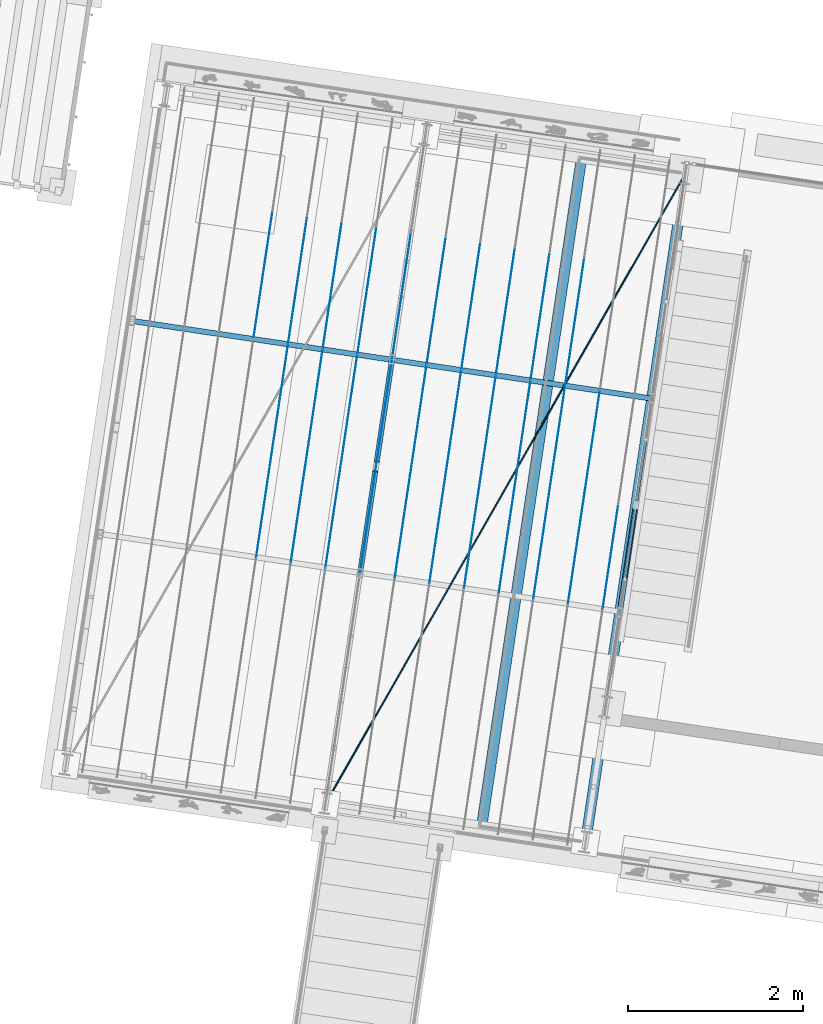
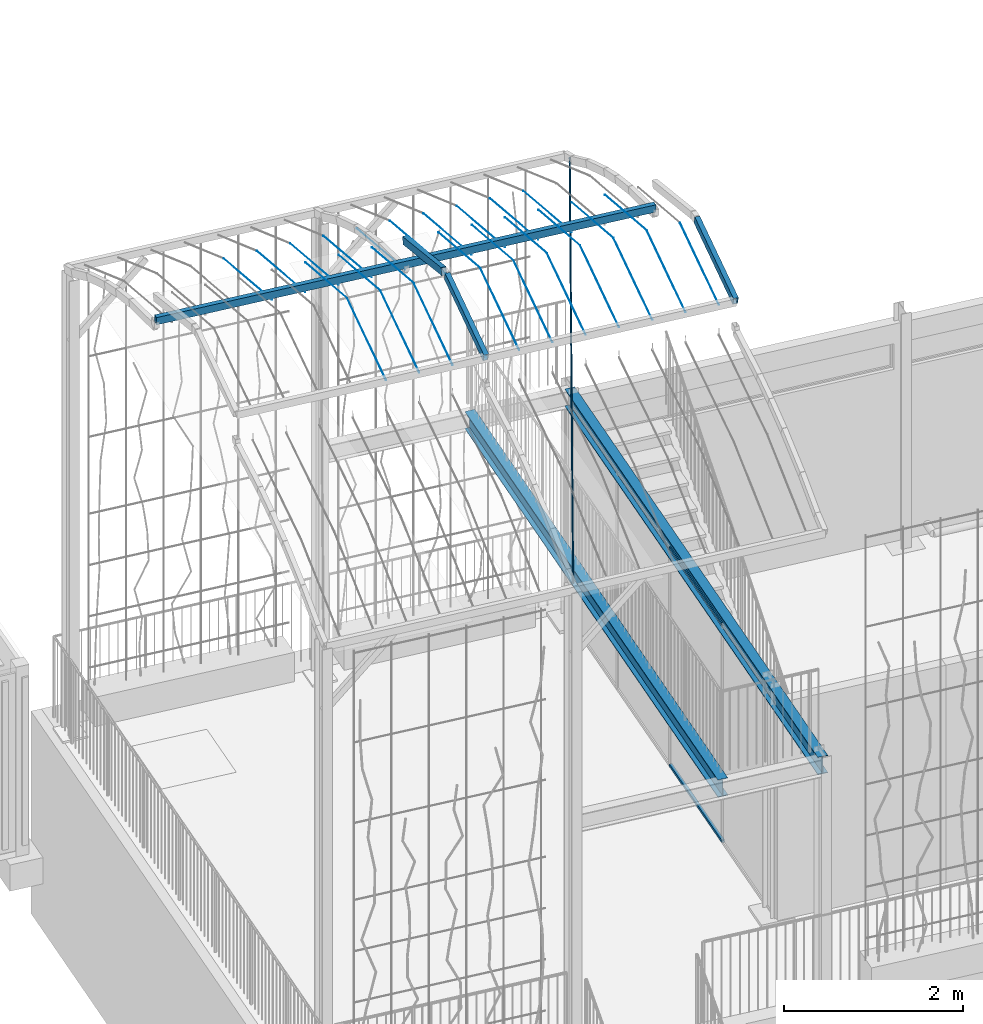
# One storey, part 31 of 142: 37 members, 3 beams, 1 element without a shape of its own.
"""IFC4 building model written with IfcOpenShell, lengths in metres."""

import ifcopenshell
import ifcopenshell.guid

model = None  # the IFC model being written
_history = None  # IfcOwnerHistory: only IFC2X3 demands one
_inside = {}  # id of a spatial element -> (the spatial element, [elements in it])
_under = {}  # id of a project, library or spatial element -> (it, [spatial elements below it])
_declared = {}  # id of a project -> (the project, [libraries it declares])
_typed = {}  # id of a type object -> (the type object, [elements of that type])
_made_of = {}  # id of a material, layer set ... -> (it, [elements and type objects made of it])


def new_model(schema):
    """Start an empty IFC model of exactly this schema.

    Asked for "IFC4X3", IfcOpenShell would pick the latest addendum, in which some entities
    have other attributes; the version numbers below select the first issue.
    IFC2X3 requires an IfcOwnerHistory on every rooted entity: one is made here for all.
    """
    global model, _history
    if schema == "IFC4X3":
        model = ifcopenshell.file(schema_version=(4, 3, 0, 0))
    else:
        model = ifcopenshell.file(schema=schema)
    _inside.clear()
    _under.clear()
    _declared.clear()
    _typed.clear()
    _made_of.clear()
    _history = None
    if model.schema == "IFC2X3":
        org = make("IfcOrganization", Name="unknown")
        user = make(
            "IfcPersonAndOrganization",
            ThePerson=make("IfcPerson", FamilyName="unknown"),
            TheOrganization=org,
        )
        app = make(
            "IfcApplication",
            ApplicationDeveloper=org,
            Version="unknown",
            ApplicationFullName="unknown",
            ApplicationIdentifier="unknown",
        )
        _history = make(
            "IfcOwnerHistory",
            OwningUser=user,
            OwningApplication=app,
            ChangeAction="ADDED",
            CreationDate=0,
        )
    return model


def make(cls, **values):
    """One entity of the class cls with the attributes given. An attribute that is None is left unset."""
    return model.create_entity(
        cls, **{name: value for name, value in values.items() if value is not None}
    )


def rooted(cls, **values):
    """An entity with a GlobalId (a new one), such as an element, a storey or a relation."""
    return make(cls, GlobalId=ifcopenshell.guid.new(), OwnerHistory=_history, **values)


def si_unit(unit_type, name, prefix=None):
    """IfcSIUnit, for example si_unit("LENGTHUNIT", "METRE", prefix="MILLI")."""
    return make("IfcSIUnit", UnitType=unit_type, Prefix=prefix, Name=name)


def assignment(units):
    """IfcUnitAssignment: the units of a project."""
    return None if units is None else make("IfcUnitAssignment", Units=units)


def point(xyz):
    """IfcCartesianPoint."""
    return None if xyz is None else make("IfcCartesianPoint", Coordinates=xyz)


def direction(xyz):
    """IfcDirection."""
    return None if xyz is None else make("IfcDirection", DirectionRatios=xyz)


def frame(location, z_axis=None, x_axis=None):
    """IfcAxis2Placement3D, a coordinate frame: its origin and axes. An axis left out is left unset."""
    return make(
        "IfcAxis2Placement3D",
        Location=point(location),
        Axis=direction(z_axis),
        RefDirection=direction(x_axis),
    )


def origin_with_axes():
    """The frame at (0, 0, 0) with the z axis (0, 0, 1) and the x axis (1, 0, 0) written out."""
    return frame((0.0, 0.0, 0.0), z_axis=(0.0, 0.0, 1.0), x_axis=(1.0, 0.0, 0.0))


def place(relative_to, where):
    """IfcLocalPlacement: puts the frame where relative to a parent placement (None: the world)."""
    return make(
        "IfcLocalPlacement", PlacementRelTo=relative_to, RelativePlacement=where
    )


def context(
    kind, dimensions, precision=None, world=None, true_north=None, identifier=None
):
    """IfcGeometricRepresentationContext, for example the 3D "Model" context."""
    return make(
        "IfcGeometricRepresentationContext",
        ContextIdentifier=identifier,
        ContextType=kind,
        CoordinateSpaceDimension=dimensions,
        Precision=precision,
        WorldCoordinateSystem=world,
        TrueNorth=true_north,
    )


def subcontext(parent, identifier, kind, view, scale=None):
    """IfcGeometricRepresentationSubContext, for example "Body" below "Model"."""
    return make(
        "IfcGeometricRepresentationSubContext",
        ContextIdentifier=identifier,
        ContextType=kind,
        ParentContext=parent,
        TargetScale=scale,
        TargetView=view,
    )


def project(units=None, contexts=None):
    """IfcProject with its units and contexts."""
    return rooted(
        "IfcProject",
        Name="project",
        RepresentationContexts=contexts,
        UnitsInContext=assignment(units),
    )


def spatial(cls, under=None, at=None, **own):
    """A site, building, storey or space (cls), placed at a placement, below another one or the project."""
    s = rooted(cls, ObjectPlacement=at, **own)
    if under is not None:
        _under.setdefault(under.id(), (under, []))[1].append(s)
    return s


def profile(cls, at=None, kind="AREA", **sizes):
    """A parametric profile (cls). Its sizes go by their IFC names, for example OverallWidth=200.0."""
    return make(cls, ProfileType=kind, Position=at, **sizes)


def rectangle(**sizes):
    """IfcRectangleProfileDef."""
    return profile("IfcRectangleProfileDef", **sizes)


def hollow_rectangle(**sizes):
    """IfcRectangleHollowProfileDef."""
    return profile("IfcRectangleHollowProfileDef", **sizes)


def circle(**sizes):
    """IfcCircleProfileDef."""
    return profile("IfcCircleProfileDef", **sizes)


def i_section(**sizes):
    """IfcIShapeProfileDef."""
    return profile("IfcIShapeProfileDef", **sizes)


def extrude(swept, where, along, depth):
    """IfcExtrudedAreaSolid: the profile swept, set in the frame where, extruded along a direction by depth."""
    return make(
        "IfcExtrudedAreaSolid",
        SweptArea=swept,
        Position=where,
        ExtrudedDirection=direction(along),
        Depth=depth,
    )


def shape(context_of_items, identifier, shape_type, items):
    """IfcShapeRepresentation: the items that make up one representation, for example the "Body"."""
    return make(
        "IfcShapeRepresentation",
        ContextOfItems=context_of_items,
        RepresentationIdentifier=identifier,
        RepresentationType=shape_type,
        Items=items,
    )


def material(Name=None, Category=None):
    """IfcMaterial."""
    return make("IfcMaterial", Name=Name, Category=Category)


def material_profile(
    of_material, cross_section, Name=None, Category=None, Priority=None
):
    """IfcMaterialProfile: a cross section and its material."""
    return make(
        "IfcMaterialProfile",
        Name=Name,
        Material=of_material,
        Profile=cross_section,
        Priority=Priority,
        Category=Category,
    )


def profile_set(profiles, Name=None, composite=None):
    """IfcMaterialProfileSet."""
    return make(
        "IfcMaterialProfileSet",
        Name=Name,
        MaterialProfiles=profiles,
        CompositeProfile=composite,
    )


def profile_usage(for_profile_set, cardinal=None, extent=None):
    """IfcMaterialProfileSetUsage: how a profile set lies along its element."""
    return make(
        "IfcMaterialProfileSetUsage",
        ForProfileSet=for_profile_set,
        CardinalPoint=cardinal,
        ReferenceExtent=extent,
    )


def made_of(thing, what):
    """Note that an element or type object is made of a material, layer set ...; save() writes the relation."""
    if what is not None:
        _made_of.setdefault(what.id(), (what, []))[1].append(thing)
    return thing


def type_object(cls, material=None, **own):
    """A type object (cls), such as IfcWallType, which elements share."""
    return made_of(rooted(cls, **own), material)


def element(
    cls,
    number,
    at=None,
    inside=None,
    cuts=None,
    type_object=None,
    material=None,
    context=None,
    identifier="Body",
    shape_type=None,
    held_by="IfcProductDefinitionShape",
    body=None,
    shapes=None,
    **own,
):
    """One element of the class cls, such as IfcWall. Its Tag is "e" and its number.

    at: its placement. inside: the storey or other place that contains it. cuts: it is an
    opening in that element (IfcRelVoidsElement). A single representation is given by context,
    identifier, shape_type and body (its items); several are given by shapes. held_by: the class
    of the entity that holds the representations. save() writes the other relations.
    """
    e = rooted(cls, Tag="e%d" % number, ObjectPlacement=at, **own)
    if body is not None:
        shapes = [shape(context, identifier, shape_type, body)]
    if shapes is not None:
        e.Representation = make(held_by, Representations=shapes)
    if inside is not None:
        _inside.setdefault(inside.id(), (inside, []))[1].append(e)
    if cuts is not None:
        rooted(
            "IfcRelVoidsElement", RelatingBuildingElement=cuts, RelatedOpeningElement=e
        )
    if type_object is not None:
        _typed.setdefault(type_object.id(), (type_object, []))[1].append(e)
    return made_of(e, material)


def aggregate(whole, parts):
    """IfcRelAggregates: a whole, such as a stair, and the parts it consists of."""
    return rooted("IfcRelAggregates", RelatingObject=whole, RelatedObjects=parts)


def save(model, path):
    """Write the relations noted so far, then the file.

    IfcRelAggregates (storeys below a building ...), IfcRelContainedInSpatialStructure (elements
    in a storey), IfcRelDefinesByType, IfcRelAssociatesMaterial and IfcRelDeclares: one each for
    every whole, place, type object, material and project.
    """
    for whole, parts in _under.values():
        aggregate(whole, parts)
    for where, things in _inside.values():
        rooted(
            "IfcRelContainedInSpatialStructure",
            RelatedElements=things,
            RelatingStructure=where,
        )
    for kind, things in _typed.values():
        rooted("IfcRelDefinesByType", RelatedObjects=things, RelatingType=kind)
    for what, things in _made_of.values():
        rooted("IfcRelAssociatesMaterial", RelatedObjects=things, RelatingMaterial=what)
    for by, libraries in _declared.values():
        rooted("IfcRelDeclares", RelatingContext=by, RelatedDefinitions=libraries)
    model.write(path)


model = new_model("IFC4")

# Units and contexts
model_context = context("Model", 3, precision=1e-05, world=origin_with_axes(), true_north=direction((0.0, 1.0)))
body_context = subcontext(model_context, "Body", "Model", "MODEL_VIEW")
ifc_project = project(units=[si_unit("VOLUMEUNIT", "CUBIC_METRE"), si_unit("LENGTHUNIT", "METRE"), si_unit("AREAUNIT", "SQUARE_METRE")], contexts=[model_context])

# Site, building, storey
site_placement = place(None, origin_with_axes())
site = spatial("IfcSite", under=ifc_project, at=site_placement, Name="Lares · Rua das Mercês · artigo 4771")
building_placement = place(site_placement, frame((12.0, 10.2, 13.9), z_axis=(0.0, 0.0, 1.0), x_axis=(0.989015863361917, -0.147809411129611, 0.0)))
building = spatial("IfcBuilding", under=site, at=building_placement, Name="Casa Sobreposta")
storey_placement = place(building_placement, origin_with_axes())
storey = spatial("IfcBuildingStorey", under=building, at=storey_placement, Name="00 · Habitação e estacionamento", Elevation=13.9)

# Assembly, beams
assembly_placement = place(storey_placement, origin_with_axes())
assembly = element("IfcElementAssembly", 1, at=assembly_placement, inside=storey, Name="Pérgola · prolongamento da estufa 6 m", ObjectType="PERGOLA_GREENHOUSE_EXTENSION", PredefinedType="USERDEFINED")
ifc_material_1 = material(Name="Aço pintado / Stahl lackiert", Category="steel")
ifc_material_profile_1 = material_profile(ifc_material_1, i_section(OverallWidth=0.12, OverallDepth=0.24, WebThickness=0.0062, FlangeThickness=0.0098))
ifc_profile_set_1 = profile_set([ifc_material_profile_1], Name="IPE240")
ifc_profile_usage_1 = profile_usage(ifc_profile_set_1)
beam_type_1 = type_object("IfcBeamType", Name="IPE240 / steel", PredefinedType="NOTDEFINED", material=ifc_profile_set_1)
beam_1_placement = place(assembly_placement, frame((-1.2, -1.44, 3.02), z_axis=(0.0, 1.0, 0.0), x_axis=(1.0, 0.0, 0.0)))
beam_1 = element("IfcBeam", 2, at=beam_1_placement, type_object=beam_type_1, material=ifc_profile_usage_1, Name="Varanda · viga transversal", context=body_context, shape_type="SweptSolid", body=[
    extrude(i_section(OverallWidth=0.12, OverallDepth=0.24, WebThickness=0.0062, FlangeThickness=0.0098), origin_with_axes(), (0.0, 0.0, 1.0), 7.72),
])
ifc_profile_usage_2 = profile_usage(ifc_profile_set_1)
beam_2_placement = place(assembly_placement, frame((0.0, -1.44, 3.02), z_axis=(0.0, 1.0, 0.0), x_axis=(1.0, 0.0, 0.0)))
beam_2 = element("IfcBeam", 3, at=beam_2_placement, type_object=beam_type_1, material=ifc_profile_usage_2, Name="Varanda · viga transversal", context=body_context, shape_type="SweptSolid", body=[
    extrude(i_section(OverallWidth=0.12, OverallDepth=0.24, WebThickness=0.0062, FlangeThickness=0.0098), origin_with_axes(), (0.0, 0.0, 1.0), 7.72),
])

# Members
ifc_material_profile_2 = material_profile(ifc_material_1, rectangle(XDim=0.035, YDim=0.035))
ifc_profile_set_2 = profile_set([ifc_material_profile_2], Name="R0.035")
ifc_profile_usage_3 = profile_usage(ifc_profile_set_2)
member_type_1 = type_object("IfcMemberType", Name="R0.035 / steel", PredefinedType="NOTDEFINED", material=ifc_profile_set_2)
member_1_placement = place(storey_placement, frame((0.0, 1.6, 0.0), z_axis=(0.0, 1.0, 0.0), x_axis=(1.0, 0.0, 0.0)))
element("IfcMember", 4, at=member_1_placement, inside=storey, type_object=member_type_1, material=ifc_profile_usage_3, Name="Fachada poente integralmente envidraçada · módulo 2 · travessa", context=body_context, shape_type="SweptSolid", body=[
    extrude(rectangle(XDim=0.035, YDim=0.035), origin_with_axes(), (0.0, 0.0, 1.0), 1.6),
])
ifc_profile_usage_4 = profile_usage(ifc_profile_set_2)
member_2_placement = place(storey_placement, frame((0.0, 1.6, 2.968), z_axis=(0.0, 1.0, 0.0), x_axis=(1.0, 0.0, 0.0)))
element("IfcMember", 5, at=member_2_placement, inside=storey, type_object=member_type_1, material=ifc_profile_usage_4, Name="Fachada poente integralmente envidraçada · módulo 2 · travessa", context=body_context, shape_type="SweptSolid", body=[
    extrude(rectangle(XDim=0.035, YDim=0.035), origin_with_axes(), (0.0, 0.0, 1.0), 1.6),
])

# Member
ifc_material_profile_3 = material_profile(ifc_material_1, hollow_rectangle(XDim=0.06, YDim=0.1, WallThickness=0.004))
ifc_profile_set_3 = profile_set([ifc_material_profile_3], Name="RHS100x60x4")
ifc_profile_usage_5 = profile_usage(ifc_profile_set_3)
member_type_2 = type_object("IfcMemberType", Name="RHS100x60x4 / steel", PredefinedType="NOTDEFINED", material=ifc_profile_set_3)
member_3_placement = place(assembly_placement, frame((-3.0, 1.22042020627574, 7.62067689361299), z_axis=(0.0, 0.960073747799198, 0.279747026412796), x_axis=(1.0, 0.0, 0.0)))
member_3 = element("IfcMember", 6, at=member_3_placement, type_object=member_type_2, material=ifc_profile_usage_5, Name="Pérgola · arco contínuo com a estufa", context=body_context, shape_type="SweptSolid", body=[
    extrude(hollow_rectangle(XDim=0.06, YDim=0.1, WallThickness=0.004), origin_with_axes(), (0.0, 0.0, 1.0), 1.23148937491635),
])

ifc_profile_usage_6 = profile_usage(ifc_profile_set_3)
member_4_placement = place(assembly_placement, frame((-3.0, 2.49770027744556, 7.96518238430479), z_axis=(0.0, 0.96007374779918, -0.279747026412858), x_axis=(1.0, 0.0, 0.0)))
member_4 = element("IfcMember", 7, at=member_4_placement, type_object=member_type_2, material=ifc_profile_usage_6, Name="Pérgola · arco contínuo com a estufa", context=body_context, shape_type="SweptSolid", body=[
    extrude(hollow_rectangle(XDim=0.06, YDim=0.1, WallThickness=0.004), origin_with_axes(), (0.0, 0.0, 1.0), 1.23148937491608),
])

ifc_profile_usage_7 = profile_usage(ifc_profile_set_3)
member_5_placement = place(assembly_placement, frame((0.0, 1.22042020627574, 7.62067689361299), z_axis=(0.0, 0.960073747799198, 0.279747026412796), x_axis=(1.0, 0.0, 0.0)))
member_5 = element("IfcMember", 8, at=member_5_placement, type_object=member_type_2, material=ifc_profile_usage_7, Name="Pérgola · arco contínuo com a estufa", context=body_context, shape_type="SweptSolid", body=[
    extrude(hollow_rectangle(XDim=0.06, YDim=0.1, WallThickness=0.004), origin_with_axes(), (0.0, 0.0, 1.0), 1.23148937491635),
])

# Beam
ifc_material_profile_4 = material_profile(ifc_material_1, hollow_rectangle(XDim=0.06, YDim=0.1, WallThickness=0.004))
ifc_profile_set_4 = profile_set([ifc_material_profile_4], Name="RHS100x60x4")
ifc_profile_usage_8 = profile_usage(ifc_profile_set_4)
beam_type_2 = type_object("IfcBeamType", Name="RHS100x60x4 / steel", PredefinedType="NOTDEFINED", material=ifc_profile_set_4)
beam_3_placement = place(assembly_placement, frame((-6.0, 3.68002089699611, 7.30067689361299), z_axis=(1.0, 0.0, 0.0), x_axis=(0.0, -1.0, 0.0)))
beam_3 = element("IfcBeam", 9, at=beam_3_placement, type_object=beam_type_2, material=ifc_profile_usage_8, Name="Pérgola · terça", context=body_context, shape_type="SweptSolid", body=[
    extrude(hollow_rectangle(XDim=0.06, YDim=0.1, WallThickness=0.004), origin_with_axes(), (0.0, 0.0, 1.0), 6.0),
])

# Member
ifc_material_profile_5 = material_profile(ifc_material_1, circle(Radius=0.008))
ifc_profile_set_5 = profile_set([ifc_material_profile_5], Name="D0.016")
ifc_profile_usage_9 = profile_usage(ifc_profile_set_5)
member_type_3 = type_object("IfcMemberType", Name="D0.016 / steel", PredefinedType="NOTDEFINED", material=ifc_profile_set_5)
member_6_placement = place(assembly_placement, frame((-3.0, -1.44, 6.28), z_axis=(0.362213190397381, 0.932095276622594, 0.0), x_axis=(0.932095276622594, -0.362213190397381, 0.0)))
member_6 = element("IfcMember", 10, at=member_6_placement, type_object=member_type_3, material=ifc_profile_usage_9, Name="Pérgola · tirante em cobertura", context=body_context, shape_type="SweptSolid", body=[
    extrude(circle(Radius=0.008), origin_with_axes(), (0.0, 0.0, 1.0), 8.28241510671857),
])

ifc_material_2 = material(Name="Aço galvanizado / Stahl verzinkt", Category="steel")
ifc_material_profile_6 = material_profile(ifc_material_2, circle(Radius=0.002))
ifc_profile_set_6 = profile_set([ifc_material_profile_6], Name="D0.004")
ifc_profile_usage_10 = profile_usage(ifc_profile_set_6)
member_type_4 = type_object("IfcMemberType", Name="D0.004 / galvanized", PredefinedType="NOTDEFINED", material=ifc_profile_set_6)
member_7_placement = place(assembly_placement, frame((-4.6, 3.68573096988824, 7.21327919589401), z_axis=(0.0, 0.965357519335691, -0.260930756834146), x_axis=(1.0, 0.0, 0.0)))
member_7 = element("IfcMember", 11, at=member_7_placement, type_object=member_type_4, material=ifc_profile_usage_10, Name="Pérgola · fio para trepadeiras", context=body_context, shape_type="SweptSolid", body=[
    extrude(circle(Radius=0.002), origin_with_axes(), (0.0, 0.0, 1.0), 1.523553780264),
])

ifc_profile_usage_11 = profile_usage(ifc_profile_set_6)
member_8_placement = place(assembly_placement, frame((-4.2, 1.22042020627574, 7.62067689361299), z_axis=(0.0, 0.960073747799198, 0.279747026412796), x_axis=(1.0, 0.0, 0.0)))
member_8 = element("IfcMember", 12, at=member_8_placement, type_object=member_type_4, material=ifc_profile_usage_11, Name="Pérgola · fio para trepadeiras", context=body_context, shape_type="SweptSolid", body=[
    extrude(circle(Radius=0.002), origin_with_axes(), (0.0, 0.0, 1.0), 1.23148937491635),
])

ifc_profile_usage_12 = profile_usage(ifc_profile_set_6)
member_9_placement = place(assembly_placement, frame((-4.2, 2.40274082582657, 7.96518238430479), z_axis=(0.0, 0.965497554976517, -0.260412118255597), x_axis=(1.0, 0.0, 0.0)))
member_9 = element("IfcMember", 13, at=member_9_placement, type_object=member_type_4, material=ifc_profile_usage_12, Name="Pérgola · fio para trepadeiras", context=body_context, shape_type="SweptSolid", body=[
    extrude(circle(Radius=0.002), origin_with_axes(), (0.0, 0.0, 1.0), 1.32292419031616),
])

ifc_profile_usage_13 = profile_usage(ifc_profile_set_6)
member_10_placement = place(assembly_placement, frame((-4.2, 3.68573096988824, 7.21327919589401), z_axis=(0.0, 0.965357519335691, -0.260930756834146), x_axis=(1.0, 0.0, 0.0)))
member_10 = element("IfcMember", 14, at=member_10_placement, type_object=member_type_4, material=ifc_profile_usage_13, Name="Pérgola · fio para trepadeiras", context=body_context, shape_type="SweptSolid", body=[
    extrude(circle(Radius=0.002), origin_with_axes(), (0.0, 0.0, 1.0), 1.523553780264),
])

ifc_profile_usage_14 = profile_usage(ifc_profile_set_6)
member_11_placement = place(assembly_placement, frame((-3.8, 1.22042020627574, 7.62067689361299), z_axis=(0.0, 0.960073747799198, 0.279747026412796), x_axis=(1.0, 0.0, 0.0)))
member_11 = element("IfcMember", 15, at=member_11_placement, type_object=member_type_4, material=ifc_profile_usage_14, Name="Pérgola · fio para trepadeiras", context=body_context, shape_type="SweptSolid", body=[
    extrude(circle(Radius=0.002), origin_with_axes(), (0.0, 0.0, 1.0), 1.23148937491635),
])

ifc_profile_usage_15 = profile_usage(ifc_profile_set_6)
member_12_placement = place(assembly_placement, frame((-3.8, 2.40274082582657, 7.96518238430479), z_axis=(0.0, 0.965497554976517, -0.260412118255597), x_axis=(1.0, 0.0, 0.0)))
member_12 = element("IfcMember", 16, at=member_12_placement, type_object=member_type_4, material=ifc_profile_usage_15, Name="Pérgola · fio para trepadeiras", context=body_context, shape_type="SweptSolid", body=[
    extrude(circle(Radius=0.002), origin_with_axes(), (0.0, 0.0, 1.0), 1.32292419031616),
])

ifc_profile_usage_16 = profile_usage(ifc_profile_set_6)
member_13_placement = place(assembly_placement, frame((-3.8, 3.68573096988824, 7.21327919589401), z_axis=(0.0, 0.965357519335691, -0.260930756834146), x_axis=(1.0, 0.0, 0.0)))
member_13 = element("IfcMember", 17, at=member_13_placement, type_object=member_type_4, material=ifc_profile_usage_16, Name="Pérgola · fio para trepadeiras", context=body_context, shape_type="SweptSolid", body=[
    extrude(circle(Radius=0.002), origin_with_axes(), (0.0, 0.0, 1.0), 1.523553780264),
])

ifc_profile_usage_17 = profile_usage(ifc_profile_set_6)
member_14_placement = place(assembly_placement, frame((-3.4, 1.22042020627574, 7.62067689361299), z_axis=(0.0, 0.960073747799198, 0.279747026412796), x_axis=(1.0, 0.0, 0.0)))
member_14 = element("IfcMember", 18, at=member_14_placement, type_object=member_type_4, material=ifc_profile_usage_17, Name="Pérgola · fio para trepadeiras", context=body_context, shape_type="SweptSolid", body=[
    extrude(circle(Radius=0.002), origin_with_axes(), (0.0, 0.0, 1.0), 1.23148937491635),
])

ifc_profile_usage_18 = profile_usage(ifc_profile_set_6)
member_15_placement = place(assembly_placement, frame((-3.4, 2.40274082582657, 7.96518238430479), z_axis=(0.0, 0.965497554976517, -0.260412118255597), x_axis=(1.0, 0.0, 0.0)))
member_15 = element("IfcMember", 19, at=member_15_placement, type_object=member_type_4, material=ifc_profile_usage_18, Name="Pérgola · fio para trepadeiras", context=body_context, shape_type="SweptSolid", body=[
    extrude(circle(Radius=0.002), origin_with_axes(), (0.0, 0.0, 1.0), 1.32292419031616),
])

ifc_profile_usage_19 = profile_usage(ifc_profile_set_6)
member_16_placement = place(assembly_placement, frame((-3.4, 3.68573096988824, 7.21327919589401), z_axis=(0.0, 0.965357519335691, -0.260930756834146), x_axis=(1.0, 0.0, 0.0)))
member_16 = element("IfcMember", 20, at=member_16_placement, type_object=member_type_4, material=ifc_profile_usage_19, Name="Pérgola · fio para trepadeiras", context=body_context, shape_type="SweptSolid", body=[
    extrude(circle(Radius=0.002), origin_with_axes(), (0.0, 0.0, 1.0), 1.523553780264),
])

ifc_profile_usage_20 = profile_usage(ifc_profile_set_6)
member_17_placement = place(assembly_placement, frame((-3.0, 1.22042020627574, 7.62067689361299), z_axis=(0.0, 0.960073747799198, 0.279747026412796), x_axis=(1.0, 0.0, 0.0)))
member_17 = element("IfcMember", 21, at=member_17_placement, type_object=member_type_4, material=ifc_profile_usage_20, Name="Pérgola · fio para trepadeiras", context=body_context, shape_type="SweptSolid", body=[
    extrude(circle(Radius=0.002), origin_with_axes(), (0.0, 0.0, 1.0), 1.23148937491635),
])

ifc_profile_usage_21 = profile_usage(ifc_profile_set_6)
member_18_placement = place(assembly_placement, frame((-3.0, 2.40274082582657, 7.96518238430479), z_axis=(0.0, 0.965497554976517, -0.260412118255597), x_axis=(1.0, 0.0, 0.0)))
member_18 = element("IfcMember", 22, at=member_18_placement, type_object=member_type_4, material=ifc_profile_usage_21, Name="Pérgola · fio para trepadeiras", context=body_context, shape_type="SweptSolid", body=[
    extrude(circle(Radius=0.002), origin_with_axes(), (0.0, 0.0, 1.0), 1.32292419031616),
])

ifc_profile_usage_22 = profile_usage(ifc_profile_set_6)
member_19_placement = place(assembly_placement, frame((-3.0, 3.68573096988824, 7.21327919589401), z_axis=(0.0, 0.965357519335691, -0.260930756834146), x_axis=(1.0, 0.0, 0.0)))
member_19 = element("IfcMember", 23, at=member_19_placement, type_object=member_type_4, material=ifc_profile_usage_22, Name="Pérgola · fio para trepadeiras", context=body_context, shape_type="SweptSolid", body=[
    extrude(circle(Radius=0.002), origin_with_axes(), (0.0, 0.0, 1.0), 1.523553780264),
])

ifc_profile_usage_23 = profile_usage(ifc_profile_set_6)
member_20_placement = place(assembly_placement, frame((-2.6, 1.22042020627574, 7.62067689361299), z_axis=(0.0, 0.960073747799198, 0.279747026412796), x_axis=(1.0, 0.0, 0.0)))
member_20 = element("IfcMember", 24, at=member_20_placement, type_object=member_type_4, material=ifc_profile_usage_23, Name="Pérgola · fio para trepadeiras", context=body_context, shape_type="SweptSolid", body=[
    extrude(circle(Radius=0.002), origin_with_axes(), (0.0, 0.0, 1.0), 1.23148937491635),
])

ifc_profile_usage_24 = profile_usage(ifc_profile_set_6)
member_21_placement = place(assembly_placement, frame((-2.6, 2.40274082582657, 7.96518238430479), z_axis=(0.0, 0.965497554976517, -0.260412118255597), x_axis=(1.0, 0.0, 0.0)))
member_21 = element("IfcMember", 25, at=member_21_placement, type_object=member_type_4, material=ifc_profile_usage_24, Name="Pérgola · fio para trepadeiras", context=body_context, shape_type="SweptSolid", body=[
    extrude(circle(Radius=0.002), origin_with_axes(), (0.0, 0.0, 1.0), 1.32292419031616),
])

ifc_profile_usage_25 = profile_usage(ifc_profile_set_6)
member_22_placement = place(assembly_placement, frame((-2.6, 3.68573096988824, 7.21327919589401), z_axis=(0.0, 0.965357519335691, -0.260930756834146), x_axis=(1.0, 0.0, 0.0)))
member_22 = element("IfcMember", 26, at=member_22_placement, type_object=member_type_4, material=ifc_profile_usage_25, Name="Pérgola · fio para trepadeiras", context=body_context, shape_type="SweptSolid", body=[
    extrude(circle(Radius=0.002), origin_with_axes(), (0.0, 0.0, 1.0), 1.523553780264),
])

ifc_profile_usage_26 = profile_usage(ifc_profile_set_6)
member_23_placement = place(assembly_placement, frame((-2.2, 1.22042020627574, 7.62067689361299), z_axis=(0.0, 0.960073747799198, 0.279747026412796), x_axis=(1.0, 0.0, 0.0)))
member_23 = element("IfcMember", 27, at=member_23_placement, type_object=member_type_4, material=ifc_profile_usage_26, Name="Pérgola · fio para trepadeiras", context=body_context, shape_type="SweptSolid", body=[
    extrude(circle(Radius=0.002), origin_with_axes(), (0.0, 0.0, 1.0), 1.23148937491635),
])

ifc_profile_usage_27 = profile_usage(ifc_profile_set_6)
member_24_placement = place(assembly_placement, frame((-2.2, 2.40274082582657, 7.96518238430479), z_axis=(0.0, 0.965497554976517, -0.260412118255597), x_axis=(1.0, 0.0, 0.0)))
member_24 = element("IfcMember", 28, at=member_24_placement, type_object=member_type_4, material=ifc_profile_usage_27, Name="Pérgola · fio para trepadeiras", context=body_context, shape_type="SweptSolid", body=[
    extrude(circle(Radius=0.002), origin_with_axes(), (0.0, 0.0, 1.0), 1.32292419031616),
])

ifc_profile_usage_28 = profile_usage(ifc_profile_set_6)
member_25_placement = place(assembly_placement, frame((-2.2, 3.68573096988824, 7.21327919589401), z_axis=(0.0, 0.965357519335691, -0.260930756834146), x_axis=(1.0, 0.0, 0.0)))
member_25 = element("IfcMember", 29, at=member_25_placement, type_object=member_type_4, material=ifc_profile_usage_28, Name="Pérgola · fio para trepadeiras", context=body_context, shape_type="SweptSolid", body=[
    extrude(circle(Radius=0.002), origin_with_axes(), (0.0, 0.0, 1.0), 1.523553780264),
])

ifc_profile_usage_29 = profile_usage(ifc_profile_set_6)
member_26_placement = place(assembly_placement, frame((-1.8, 1.22042020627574, 7.62067689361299), z_axis=(0.0, 0.960073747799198, 0.279747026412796), x_axis=(1.0, 0.0, 0.0)))
member_26 = element("IfcMember", 30, at=member_26_placement, type_object=member_type_4, material=ifc_profile_usage_29, Name="Pérgola · fio para trepadeiras", context=body_context, shape_type="SweptSolid", body=[
    extrude(circle(Radius=0.002), origin_with_axes(), (0.0, 0.0, 1.0), 1.23148937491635),
])

ifc_profile_usage_30 = profile_usage(ifc_profile_set_6)
member_27_placement = place(assembly_placement, frame((-1.8, 2.40274082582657, 7.96518238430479), z_axis=(0.0, 0.965497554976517, -0.260412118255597), x_axis=(1.0, 0.0, 0.0)))
member_27 = element("IfcMember", 31, at=member_27_placement, type_object=member_type_4, material=ifc_profile_usage_30, Name="Pérgola · fio para trepadeiras", context=body_context, shape_type="SweptSolid", body=[
    extrude(circle(Radius=0.002), origin_with_axes(), (0.0, 0.0, 1.0), 1.32292419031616),
])

ifc_profile_usage_31 = profile_usage(ifc_profile_set_6)
member_28_placement = place(assembly_placement, frame((-1.8, 3.68573096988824, 7.21327919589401), z_axis=(0.0, 0.965357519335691, -0.260930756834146), x_axis=(1.0, 0.0, 0.0)))
member_28 = element("IfcMember", 32, at=member_28_placement, type_object=member_type_4, material=ifc_profile_usage_31, Name="Pérgola · fio para trepadeiras", context=body_context, shape_type="SweptSolid", body=[
    extrude(circle(Radius=0.002), origin_with_axes(), (0.0, 0.0, 1.0), 1.523553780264),
])

ifc_profile_usage_32 = profile_usage(ifc_profile_set_6)
member_29_placement = place(assembly_placement, frame((-1.4, 1.22042020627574, 7.62067689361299), z_axis=(0.0, 0.960073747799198, 0.279747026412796), x_axis=(1.0, 0.0, 0.0)))
member_29 = element("IfcMember", 33, at=member_29_placement, type_object=member_type_4, material=ifc_profile_usage_32, Name="Pérgola · fio para trepadeiras", context=body_context, shape_type="SweptSolid", body=[
    extrude(circle(Radius=0.002), origin_with_axes(), (0.0, 0.0, 1.0), 1.23148937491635),
])

ifc_profile_usage_33 = profile_usage(ifc_profile_set_6)
member_30_placement = place(assembly_placement, frame((-1.4, 2.40274082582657, 7.96518238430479), z_axis=(0.0, 0.965497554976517, -0.260412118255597), x_axis=(1.0, 0.0, 0.0)))
member_30 = element("IfcMember", 34, at=member_30_placement, type_object=member_type_4, material=ifc_profile_usage_33, Name="Pérgola · fio para trepadeiras", context=body_context, shape_type="SweptSolid", body=[
    extrude(circle(Radius=0.002), origin_with_axes(), (0.0, 0.0, 1.0), 1.32292419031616),
])

ifc_profile_usage_34 = profile_usage(ifc_profile_set_6)
member_31_placement = place(assembly_placement, frame((-1.4, 3.68573096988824, 7.21327919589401), z_axis=(0.0, 0.965357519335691, -0.260930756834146), x_axis=(1.0, 0.0, 0.0)))
member_31 = element("IfcMember", 35, at=member_31_placement, type_object=member_type_4, material=ifc_profile_usage_34, Name="Pérgola · fio para trepadeiras", context=body_context, shape_type="SweptSolid", body=[
    extrude(circle(Radius=0.002), origin_with_axes(), (0.0, 0.0, 1.0), 1.523553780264),
])

ifc_profile_usage_35 = profile_usage(ifc_profile_set_6)
member_32_placement = place(assembly_placement, frame((-0.999999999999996, 1.22042020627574, 7.62067689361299), z_axis=(0.0, 0.960073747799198, 0.279747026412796), x_axis=(1.0, 0.0, 0.0)))
member_32 = element("IfcMember", 36, at=member_32_placement, type_object=member_type_4, material=ifc_profile_usage_35, Name="Pérgola · fio para trepadeiras", context=body_context, shape_type="SweptSolid", body=[
    extrude(circle(Radius=0.002), origin_with_axes(), (0.0, 0.0, 1.0), 1.23148937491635),
])

ifc_profile_usage_36 = profile_usage(ifc_profile_set_6)
member_33_placement = place(assembly_placement, frame((-0.999999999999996, 2.40274082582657, 7.96518238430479), z_axis=(0.0, 0.965497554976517, -0.260412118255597), x_axis=(1.0, 0.0, 0.0)))
member_33 = element("IfcMember", 37, at=member_33_placement, type_object=member_type_4, material=ifc_profile_usage_36, Name="Pérgola · fio para trepadeiras", context=body_context, shape_type="SweptSolid", body=[
    extrude(circle(Radius=0.002), origin_with_axes(), (0.0, 0.0, 1.0), 1.32292419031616),
])

ifc_profile_usage_37 = profile_usage(ifc_profile_set_6)
member_34_placement = place(assembly_placement, frame((-0.999999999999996, 3.68573096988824, 7.21327919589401), z_axis=(0.0, 0.965357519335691, -0.260930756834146), x_axis=(1.0, 0.0, 0.0)))
member_34 = element("IfcMember", 38, at=member_34_placement, type_object=member_type_4, material=ifc_profile_usage_37, Name="Pérgola · fio para trepadeiras", context=body_context, shape_type="SweptSolid", body=[
    extrude(circle(Radius=0.002), origin_with_axes(), (0.0, 0.0, 1.0), 1.523553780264),
])

ifc_profile_usage_38 = profile_usage(ifc_profile_set_6)
member_35_placement = place(assembly_placement, frame((-0.599999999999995, 1.22042020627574, 7.62067689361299), z_axis=(0.0, 0.960073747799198, 0.279747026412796), x_axis=(1.0, 0.0, 0.0)))
member_35 = element("IfcMember", 39, at=member_35_placement, type_object=member_type_4, material=ifc_profile_usage_38, Name="Pérgola · fio para trepadeiras", context=body_context, shape_type="SweptSolid", body=[
    extrude(circle(Radius=0.002), origin_with_axes(), (0.0, 0.0, 1.0), 1.23148937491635),
])

ifc_profile_usage_39 = profile_usage(ifc_profile_set_6)
member_36_placement = place(assembly_placement, frame((-0.599999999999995, 2.40274082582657, 7.96518238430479), z_axis=(0.0, 0.965497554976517, -0.260412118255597), x_axis=(1.0, 0.0, 0.0)))
member_36 = element("IfcMember", 40, at=member_36_placement, type_object=member_type_4, material=ifc_profile_usage_39, Name="Pérgola · fio para trepadeiras", context=body_context, shape_type="SweptSolid", body=[
    extrude(circle(Radius=0.002), origin_with_axes(), (0.0, 0.0, 1.0), 1.32292419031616),
])

ifc_profile_usage_40 = profile_usage(ifc_profile_set_6)
member_37_placement = place(assembly_placement, frame((-0.199999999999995, 1.22042020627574, 7.62067689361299), z_axis=(0.0, 0.960073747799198, 0.279747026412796), x_axis=(1.0, 0.0, 0.0)))
member_37 = element("IfcMember", 41, at=member_37_placement, type_object=member_type_4, material=ifc_profile_usage_40, Name="Pérgola · fio para trepadeiras", context=body_context, shape_type="SweptSolid", body=[
    extrude(circle(Radius=0.002), origin_with_axes(), (0.0, 0.0, 1.0), 1.23148937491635),
])

aggregate(assembly, [member_3, member_4, member_5, beam_3, member_6, member_7, member_8, member_9, member_10, member_11, member_12, member_13, member_14, member_15, member_16, member_17, member_18, member_19, member_20, member_21, member_22, member_23, member_24, member_25, member_26, member_27, member_28, member_29, member_30, member_31, member_32, member_33, member_34, member_35, member_36, member_37, beam_1, beam_2])

save(model, "model.ifc")
